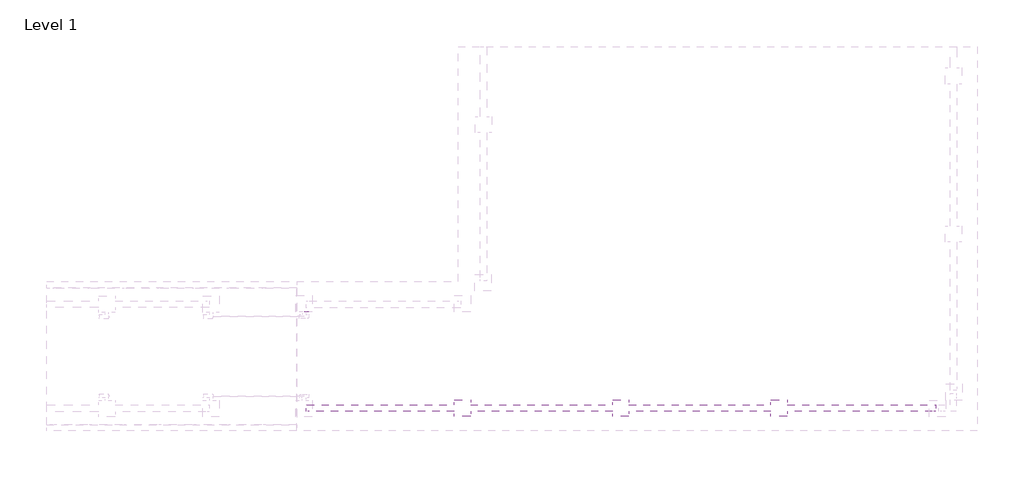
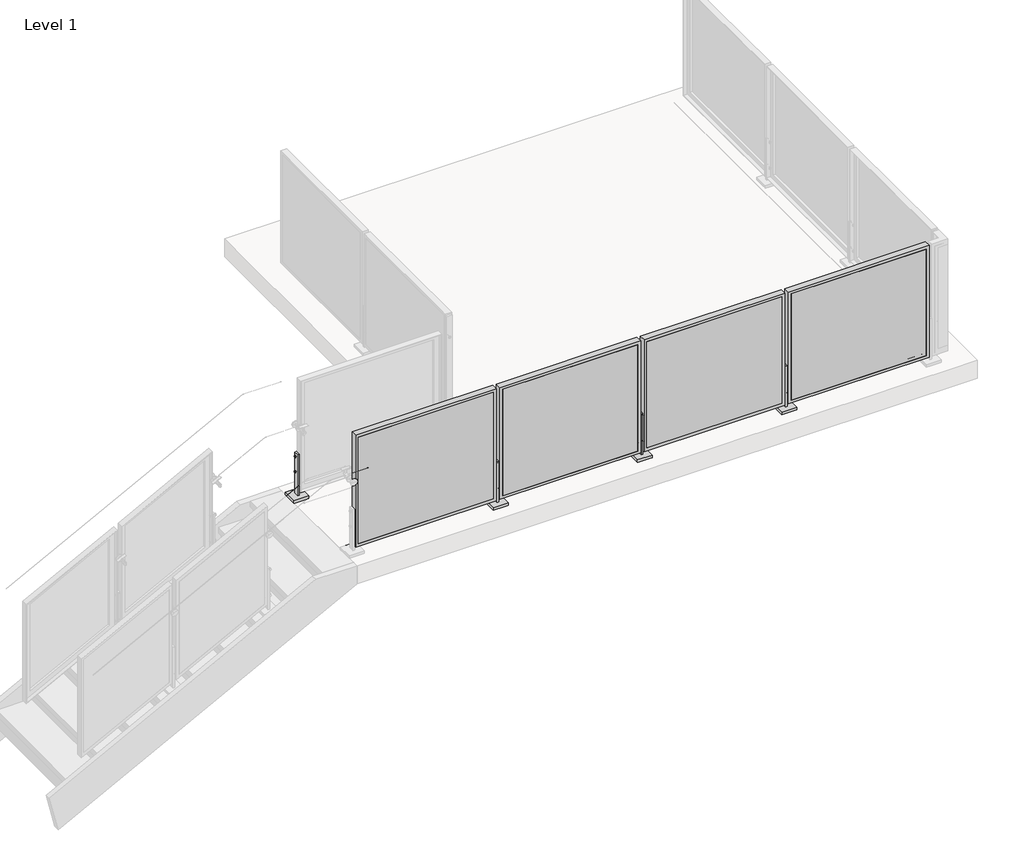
# One storey, part 16 of 37: 1 proxy, 1 railing.
"""IFC4 building model written with IfcOpenShell, lengths in millimetres."""

from ifc_helpers import new_model, si_unit, point, frame, frame_2d, origin, place, context, project, spatial, polyline, circle_curve, trimmed, segment, composite_curve, outline, extrude, faceted_brep, transform, mapped, element, save
from ifc_brep_helpers import plane_surface, cylinder_surface, advanced_brep
from components import baluster_end_post_viva_frame_top_mount_efd1a991

model = new_model("IFC4")

# Units and contexts
model_context = context("Model", 3, world=origin())
ifc_project = project(units=[si_unit("LENGTHUNIT", "METRE", prefix="MILLI")], contexts=[model_context])

# Site, building, storey
site = spatial("IfcSite", under=ifc_project)
building = spatial("IfcBuilding", under=site)
storey = spatial("IfcBuildingStorey", under=building, Name="Level 1", Elevation=0.0)

# Proxy
placement = place(None, origin())
baluster_end_post_viva_frame_top_mount_shape = baluster_end_post_viva_frame_top_mount_efd1a991(model_context)
element("IfcBuildingElementProxy", 1, Name="Baluster-End-Post-VIVA-FRAME-Top Mount : ANCHORED TO CONCRETE_TOP MOUNT FOLD_STRAIGHT", ObjectType="Baluster-End-Post-VIVA-FRAME-Top Mount : ANCHORED TO CONCRETE_TOP MOUNT FOLD_STRAIGHT", at=placement, inside=storey, context=model_context, shape_type="MappedRepresentation", body=[
    mapped(baluster_end_post_viva_frame_top_mount_shape, transform((-7413.6813244, -17681.7668664, 3047.492), x_axis=(-1.0, 0.0, 0.0), y_axis=(0.0, -1.0, 0.0), z_axis=(0.0, 0.0, 1.0))),
])

# Railing
element("IfcRailing", 2, ObjectType="Metal-Panel-VIVA-FRAME-Slab-Top-Anchor-Straight", at=placement, inside=storey, context=model_context, shape_type="SolidModel", body=[
    extrude(outline(composite_curve([segment(trimmed(circle_curve(frame_2d((-18323.6294547, 3047.746)), 0.254), [point((-18323.8834547, 3047.746))], [point((-18323.3754547, 3047.746))], False, "CARTESIAN"), True, "CONTINUOUS"), segment(trimmed(circle_curve(frame_2d((-18323.6294547, 3047.746)), 0.254), [point((-18323.3754547, 3047.746))], [point((-18323.8834547, 3047.746))], False, "CARTESIAN"), True, "CONTINUOUS")], self_intersect=False)), frame((-7413.6813244, 0.0, 0.0), z_axis=(1.0, 0.0, 0.0), x_axis=(0.0, 1.0, 0.0)), (0.0, 0.0, 1.0), 5080.0),
    extrude(outline(composite_curve([segment(trimmed(circle_curve(frame_2d((-18323.6294547, 3047.746)), 0.254), [point((-18323.8834547, 3047.746))], [point((-18323.3754547, 3047.746))], False, "CARTESIAN"), True, "CONTINUOUS"), segment(trimmed(circle_curve(frame_2d((-18323.6294547, 3047.746)), 0.254), [point((-18323.3754547, 3047.746))], [point((-18323.8834547, 3047.746))], False, "CARTESIAN"), True, "CONTINUOUS")], self_intersect=False)), frame((-7413.6813244, 0.0, 0.0), z_axis=(1.0, 0.0, 0.0), x_axis=(0.0, 1.0, 0.0)), (0.0, 0.0, 1.0), 5080.0),
    extrude(outline(polyline([(-3562.8548675, -18446.4398547), (-3562.8548675, -18443.4398547), (-2374.5077814, -18443.4398547), (-2374.5077814, -18446.4398547), (-3562.8548675, -18446.4398547)])), frame((0.0, 0.0, 3124.1959569), z_axis=(0.0, 0.0, 1.0), x_axis=(1.0, 0.0, 0.0)), (0.0, 0.0, 1.0), 990.5826861),
    faceted_brep([(-3588.2548675, -18446.4398547, 4140.1786431), (-3588.2548675, -18446.4398547, 3098.7959569), (-2349.1077814, -18446.4398547, 3098.7959569), (-2349.1077814, -18446.4398547, 4140.1786431), (-3562.8548675, -18446.4398547, 4114.7786431), (-2374.5077814, -18446.4398547, 4114.7786431), (-2374.5077814, -18446.4398547, 3124.1959569), (-3562.8548675, -18446.4398547, 3124.1959569), (-2374.5077814, -18443.4398547, 3124.1959569), (-3562.8548675, -18443.4398547, 3124.1959569), (-2374.5077814, -18443.4398547, 4114.7786431), (-3562.8548675, -18443.4398547, 4114.7786431), (-3582.2604675, -18392.6398547, 3104.7903569), (-3582.2604675, -18423.4500547, 3104.7903569), (-2355.1021814, -18423.4500547, 3104.7903569), (-2355.1021814, -18392.6398547, 3104.7903569), (-2355.1021814, -18423.4500547, 4134.1842431), (-2355.1021814, -18392.6398547, 4134.1842431), (-3582.2604675, -18392.6398547, 4134.1842431), (-3582.2604675, -18423.4500547, 4134.1842431), (-2349.1077814, -18392.6398547, 3098.7959569), (-3588.2548675, -18392.6398547, 3098.7959569), (-3588.2548675, -18392.6398547, 4140.1786431), (-2349.1077814, -18392.6398547, 4140.1786431), (-3537.4548675, -18443.4398547, 4089.3786431), (-2399.9077814, -18443.4398547, 4089.3786431), (-2399.9077814, -18443.4398547, 3149.5959569), (-3537.4548675, -18443.4398547, 3149.5959569), (-2399.9077814, -18423.4500547, 3149.5959569), (-2399.9077814, -18423.4500547, 4089.3786431), (-3537.4548675, -18423.4500547, 4089.3786431), (-3537.4548675, -18423.4500547, 3149.5959569)], [[[0, 1, 2, 3], [4, 5, 6, 7]], [[7, 6, 8, 9]], [[6, 5, 10, 8]], [[5, 4, 11, 10]], [[4, 7, 9, 11]], [[12, 13, 14, 15]], [[15, 14, 16, 17]], [[13, 12, 18, 19]], [[20, 21, 22, 23], [12, 15, 17, 18]], [[21, 1, 0, 22]], [[21, 20, 2, 1]], [[2, 20, 23, 3]], [[22, 0, 3, 23]], [[11, 9, 8, 10], [24, 25, 26, 27]], [[14, 13, 19, 16], [28, 29, 30, 31]], [[19, 18, 17, 16]], [[25, 24, 30, 29]], [[26, 25, 29, 28]], [[27, 26, 28, 31]], [[24, 27, 31, 30]]]),
    advanced_brep(
    [(-3629.8687244, -18419.5398547, 3178.1496), (-3629.8687244, -18419.5398547, 3197.2504), (-3629.8687244, -18419.5398547, 3187.7), (-3625.0935244, -18419.5398547, 3178.1496), (-3625.0935244, -18419.5398547, 3197.2504), (-3625.0935244, -18419.5398547, 3182.9248), (-3625.0935244, -18419.5398547, 3192.4752), (-3582.2691244, -18419.5398547, 3182.9248), (-3582.2691244, -18419.5398547, 3192.4752), (-3582.2691244, -18419.5398547, 3178.1496), (-3582.2691244, -18419.5398547, 3197.2504), (-3577.4939244, -18419.5398547, 3178.1496), (-3577.4939244, -18419.5398547, 3197.2504), (-3577.4939244, -18419.5398547, 3187.7)],
    [
        (0, 1, circle_curve(frame((-3629.8687244, -18419.5398547, 3187.7), z_axis=(-1.0, 0.0, 0.0), x_axis=(0.0, 0.0, 1.0)), 9.5504)),
        (1, 2),
        (2, 0),
        (1, 0, circle_curve(frame((-3629.8687244, -18419.5398547, 3187.7), z_axis=(-1.0, 0.0, 0.0), x_axis=(0.0, 0.0, 1.0)), 9.5504)),
        (3, 4, circle_curve(frame((-3625.0935244, -18419.5398547, 3187.7), z_axis=(-1.0, 0.0, 0.0), x_axis=(0.0, 0.0, 1.0)), 9.5504)),
        (4, 1),
        (0, 3),
        (4, 3, circle_curve(frame((-3625.0935244, -18419.5398547, 3187.7), z_axis=(-1.0, 0.0, 0.0), x_axis=(0.0, 0.0, 1.0)), 9.5504)),
        (5, 6, circle_curve(frame((-3625.0935244, -18419.5398547, 3187.7), z_axis=(-1.0, 0.0, 0.0), x_axis=(0.0, 0.0, 1.0)), 4.7752)),
        (6, 4),
        (3, 5),
        (6, 5, circle_curve(frame((-3625.0935244, -18419.5398547, 3187.7), z_axis=(-1.0, 0.0, 0.0), x_axis=(0.0, 0.0, 1.0)), 4.7752)),
        (7, 8, circle_curve(frame((-3582.2691244, -18419.5398547, 3187.7), z_axis=(-1.0, 0.0, 0.0), x_axis=(0.0, 0.0, 1.0)), 4.7752)),
        (8, 6),
        (5, 7),
        (8, 7, circle_curve(frame((-3582.2691244, -18419.5398547, 3187.7), z_axis=(-1.0, 0.0, 0.0), x_axis=(0.0, 0.0, 1.0)), 4.7752)),
        (9, 10, circle_curve(frame((-3582.2691244, -18419.5398547, 3187.7), z_axis=(-1.0, 0.0, 0.0), x_axis=(0.0, 0.0, 1.0)), 9.5504)),
        (10, 8),
        (7, 9),
        (10, 9, circle_curve(frame((-3582.2691244, -18419.5398547, 3187.7), z_axis=(-1.0, 0.0, 0.0), x_axis=(0.0, 0.0, 1.0)), 9.5504)),
        (11, 12, circle_curve(frame((-3577.4939244, -18419.5398547, 3187.7), z_axis=(-1.0, 0.0, 0.0), x_axis=(0.0, 0.0, 1.0)), 9.5504)),
        (12, 10),
        (9, 11),
        (12, 11, circle_curve(frame((-3577.4939244, -18419.5398547, 3187.7), z_axis=(-1.0, 0.0, 0.0), x_axis=(0.0, 0.0, 1.0)), 9.5504)),
        (13, 12),
        (11, 13),
    ],
    [
        plane_surface(frame((-3629.8687244, -18419.5398547, 3187.7), z_axis=(-1.0, 0.0, 0.0), x_axis=(0.0, 0.0, 1.0))),
        cylinder_surface(frame((-7021.4490816, -18419.5398547, 3187.7), z_axis=(1.0, 0.0, 0.0), x_axis=(0.0, 0.0, 1.0)), 9.5504),
        plane_surface(frame((-3625.0935244, -18419.5398547, 3187.7), z_axis=(1.0, 0.0, 0.0), x_axis=(0.0, 0.0, 1.0))),
        cylinder_surface(frame((-7021.4490816, -18419.5398547, 3187.7), z_axis=(1.0, 0.0, 0.0), x_axis=(0.0, 0.0, 1.0)), 4.7752),
        plane_surface(frame((-3582.2691244, -18419.5398547, 3187.7), z_axis=(-1.0, 0.0, 0.0), x_axis=(0.0, 0.0, 1.0))),
        plane_surface(frame((-3577.4939244, -18419.5398547, 3187.7), z_axis=(1.0, 0.0, 0.0), x_axis=(0.0, 0.0, 1.0))),
    ],
    [
        (0, [[1, 2, 3]]),
        (0, [[4, -3, -2]]),
        (1, [[5, 6, -1, 7]]),
        (1, [[8, -7, -4, -6]]),
        (2, [[9, 10, -5, 11]]),
        (2, [[12, -11, -8, -10]]),
        (3, [[13, 14, -9, 15]]),
        (3, [[16, -15, -12, -14]]),
        (4, [[17, 18, -13, 19]]),
        (4, [[20, -19, -16, -18]]),
        (1, [[21, 22, -17, 23]]),
        (1, [[24, -23, -20, -22]]),
        (5, [[25, -21, 26]]),
        (5, [[-26, -24, -25]]),
    ],
),
    advanced_brep(
    [(-3629.8687244, -18419.5398547, 3419.4496), (-3629.8687244, -18419.5398547, 3438.5504), (-3629.8687244, -18419.5398547, 3429.0), (-3625.0935244, -18419.5398547, 3419.4496), (-3625.0935244, -18419.5398547, 3438.5504), (-3625.0935244, -18419.5398547, 3424.2248), (-3625.0935244, -18419.5398547, 3433.7752), (-3582.2691244, -18419.5398547, 3424.2248), (-3582.2691244, -18419.5398547, 3433.7752), (-3582.2691244, -18419.5398547, 3419.4496), (-3582.2691244, -18419.5398547, 3438.5504), (-3577.4939244, -18419.5398547, 3419.4496), (-3577.4939244, -18419.5398547, 3438.5504), (-3577.4939244, -18419.5398547, 3429.0)],
    [
        (0, 1, circle_curve(frame((-3629.8687244, -18419.5398547, 3429.0), z_axis=(-1.0, 0.0, 0.0), x_axis=(0.0, 0.0, 1.0)), 9.5504)),
        (1, 2),
        (2, 0),
        (1, 0, circle_curve(frame((-3629.8687244, -18419.5398547, 3429.0), z_axis=(-1.0, 0.0, 0.0), x_axis=(0.0, 0.0, 1.0)), 9.5504)),
        (3, 4, circle_curve(frame((-3625.0935244, -18419.5398547, 3429.0), z_axis=(-1.0, 0.0, 0.0), x_axis=(0.0, 0.0, 1.0)), 9.5504)),
        (4, 1),
        (0, 3),
        (4, 3, circle_curve(frame((-3625.0935244, -18419.5398547, 3429.0), z_axis=(-1.0, 0.0, 0.0), x_axis=(0.0, 0.0, 1.0)), 9.5504)),
        (5, 6, circle_curve(frame((-3625.0935244, -18419.5398547, 3429.0), z_axis=(-1.0, 0.0, 0.0), x_axis=(0.0, 0.0, 1.0)), 4.7752)),
        (6, 4),
        (3, 5),
        (6, 5, circle_curve(frame((-3625.0935244, -18419.5398547, 3429.0), z_axis=(-1.0, 0.0, 0.0), x_axis=(0.0, 0.0, 1.0)), 4.7752)),
        (7, 8, circle_curve(frame((-3582.2691244, -18419.5398547, 3429.0), z_axis=(-1.0, 0.0, 0.0), x_axis=(0.0, 0.0, 1.0)), 4.7752)),
        (8, 6),
        (5, 7),
        (8, 7, circle_curve(frame((-3582.2691244, -18419.5398547, 3429.0), z_axis=(-1.0, 0.0, 0.0), x_axis=(0.0, 0.0, 1.0)), 4.7752)),
        (9, 10, circle_curve(frame((-3582.2691244, -18419.5398547, 3429.0), z_axis=(-1.0, 0.0, 0.0), x_axis=(0.0, 0.0, 1.0)), 9.5504)),
        (10, 8),
        (7, 9),
        (10, 9, circle_curve(frame((-3582.2691244, -18419.5398547, 3429.0), z_axis=(-1.0, 0.0, 0.0), x_axis=(0.0, 0.0, 1.0)), 9.5504)),
        (11, 12, circle_curve(frame((-3577.4939244, -18419.5398547, 3429.0), z_axis=(-1.0, 0.0, 0.0), x_axis=(0.0, 0.0, 1.0)), 9.5504)),
        (12, 10),
        (9, 11),
        (12, 11, circle_curve(frame((-3577.4939244, -18419.5398547, 3429.0), z_axis=(-1.0, 0.0, 0.0), x_axis=(0.0, 0.0, 1.0)), 9.5504)),
        (13, 12),
        (11, 13),
    ],
    [
        plane_surface(frame((-3629.8687244, -18419.5398547, 3429.0), z_axis=(-1.0, 0.0, 0.0), x_axis=(0.0, 0.0, 1.0))),
        cylinder_surface(frame((-7021.4490816, -18419.5398547, 3429.0), z_axis=(1.0, 0.0, 0.0), x_axis=(0.0, 0.0, 1.0)), 9.5504),
        plane_surface(frame((-3625.0935244, -18419.5398547, 3429.0), z_axis=(1.0, 0.0, 0.0), x_axis=(0.0, 0.0, 1.0))),
        cylinder_surface(frame((-7021.4490816, -18419.5398547, 3429.0), z_axis=(1.0, 0.0, 0.0), x_axis=(0.0, 0.0, 1.0)), 4.7752),
        plane_surface(frame((-3582.2691244, -18419.5398547, 3429.0), z_axis=(-1.0, 0.0, 0.0), x_axis=(0.0, 0.0, 1.0))),
        plane_surface(frame((-3577.4939244, -18419.5398547, 3429.0), z_axis=(1.0, 0.0, 0.0), x_axis=(0.0, 0.0, 1.0))),
    ],
    [
        (0, [[1, 2, 3]]),
        (0, [[4, -3, -2]]),
        (1, [[5, 6, -1, 7]]),
        (1, [[8, -7, -4, -6]]),
        (2, [[9, 10, -5, 11]]),
        (2, [[12, -11, -8, -10]]),
        (3, [[13, 14, -9, 15]]),
        (3, [[16, -15, -12, -14]]),
        (4, [[17, 18, -13, 19]]),
        (4, [[20, -19, -16, -18]]),
        (1, [[21, 22, -17, 23]]),
        (1, [[24, -23, -20, -22]]),
        (5, [[25, -21, 26]]),
        (5, [[-26, -24, -25]]),
    ],
),
    extrude(outline(polyline([(-3669.5689244, -18353.6522547), (-3537.7937244, -18353.6522547), (-3537.7937244, -18485.4274547), (-3669.5689244, -18485.4274547), (-3669.5689244, -18353.6522547)])), frame((0.0, 0.0, 3048.0), z_axis=(0.0, 0.0, 1.0), x_axis=(1.0, 0.0, 0.0)), (0.0, 0.0, 1.0), 25.4),
    extrude(outline(polyline([(-3611.6209161, -18397.3148547), (-3595.7417328, -18397.3148547), (-3595.7417328, -18441.7648547), (-3611.6209161, -18441.7648547), (-3611.6209161, -18397.3148547)])), frame((0.0, 0.0, 3048.0), z_axis=(0.0, 0.0, 1.0), x_axis=(1.0, 0.0, 0.0)), (0.0, 0.0, 1.0), 406.4),
    extrude(outline(polyline([(-4832.8548675, -18446.4398547), (-4832.8548675, -18443.4398547), (-3644.5077814, -18443.4398547), (-3644.5077814, -18446.4398547), (-4832.8548675, -18446.4398547)])), frame((0.0, 0.0, 3124.1959569), z_axis=(0.0, 0.0, 1.0), x_axis=(1.0, 0.0, 0.0)), (0.0, 0.0, 1.0), 990.5826861),
    faceted_brep([(-4858.2548675, -18446.4398547, 4140.1786431), (-4858.2548675, -18446.4398547, 3098.7959569), (-3619.1077814, -18446.4398547, 3098.7959569), (-3619.1077814, -18446.4398547, 4140.1786431), (-4832.8548675, -18446.4398547, 4114.7786431), (-3644.5077814, -18446.4398547, 4114.7786431), (-3644.5077814, -18446.4398547, 3124.1959569), (-4832.8548675, -18446.4398547, 3124.1959569), (-3644.5077814, -18443.4398547, 3124.1959569), (-4832.8548675, -18443.4398547, 3124.1959569), (-3644.5077814, -18443.4398547, 4114.7786431), (-4832.8548675, -18443.4398547, 4114.7786431), (-4852.2604675, -18392.6398547, 3104.7903569), (-4852.2604675, -18423.4500547, 3104.7903569), (-3625.1021814, -18423.4500547, 3104.7903569), (-3625.1021814, -18392.6398547, 3104.7903569), (-3625.1021814, -18423.4500547, 4134.1842431), (-3625.1021814, -18392.6398547, 4134.1842431), (-4852.2604675, -18392.6398547, 4134.1842431), (-4852.2604675, -18423.4500547, 4134.1842431), (-3619.1077814, -18392.6398547, 3098.7959569), (-4858.2548675, -18392.6398547, 3098.7959569), (-4858.2548675, -18392.6398547, 4140.1786431), (-3619.1077814, -18392.6398547, 4140.1786431), (-4807.4548675, -18443.4398547, 4089.3786431), (-3669.9077814, -18443.4398547, 4089.3786431), (-3669.9077814, -18443.4398547, 3149.5959569), (-4807.4548675, -18443.4398547, 3149.5959569), (-3669.9077814, -18423.4500547, 3149.5959569), (-3669.9077814, -18423.4500547, 4089.3786431), (-4807.4548675, -18423.4500547, 4089.3786431), (-4807.4548675, -18423.4500547, 3149.5959569)], [[[0, 1, 2, 3], [4, 5, 6, 7]], [[7, 6, 8, 9]], [[6, 5, 10, 8]], [[5, 4, 11, 10]], [[4, 7, 9, 11]], [[12, 13, 14, 15]], [[15, 14, 16, 17]], [[13, 12, 18, 19]], [[20, 21, 22, 23], [12, 15, 17, 18]], [[21, 1, 0, 22]], [[21, 20, 2, 1]], [[2, 20, 23, 3]], [[22, 0, 3, 23]], [[11, 9, 8, 10], [24, 25, 26, 27]], [[14, 13, 19, 16], [28, 29, 30, 31]], [[19, 18, 17, 16]], [[25, 24, 30, 29]], [[26, 25, 29, 28]], [[27, 26, 28, 31]], [[24, 27, 31, 30]]]),
    advanced_brep(
    [(-4899.8687244, -18419.5398547, 3178.1496), (-4899.8687244, -18419.5398547, 3197.2504), (-4899.8687244, -18419.5398547, 3187.7), (-4895.0935244, -18419.5398547, 3178.1496), (-4895.0935244, -18419.5398547, 3197.2504), (-4895.0935244, -18419.5398547, 3182.9248), (-4895.0935244, -18419.5398547, 3192.4752), (-4852.2691244, -18419.5398547, 3182.9248), (-4852.2691244, -18419.5398547, 3192.4752), (-4852.2691244, -18419.5398547, 3178.1496), (-4852.2691244, -18419.5398547, 3197.2504), (-4847.4939244, -18419.5398547, 3178.1496), (-4847.4939244, -18419.5398547, 3197.2504), (-4847.4939244, -18419.5398547, 3187.7)],
    [
        (0, 1, circle_curve(frame((-4899.8687244, -18419.5398547, 3187.7), z_axis=(-1.0, 0.0, 0.0), x_axis=(0.0, 0.0, 1.0)), 9.5504)),
        (1, 2),
        (2, 0),
        (1, 0, circle_curve(frame((-4899.8687244, -18419.5398547, 3187.7), z_axis=(-1.0, 0.0, 0.0), x_axis=(0.0, 0.0, 1.0)), 9.5504)),
        (3, 4, circle_curve(frame((-4895.0935244, -18419.5398547, 3187.7), z_axis=(-1.0, 0.0, 0.0), x_axis=(0.0, 0.0, 1.0)), 9.5504)),
        (4, 1),
        (0, 3),
        (4, 3, circle_curve(frame((-4895.0935244, -18419.5398547, 3187.7), z_axis=(-1.0, 0.0, 0.0), x_axis=(0.0, 0.0, 1.0)), 9.5504)),
        (5, 6, circle_curve(frame((-4895.0935244, -18419.5398547, 3187.7), z_axis=(-1.0, 0.0, 0.0), x_axis=(0.0, 0.0, 1.0)), 4.7752)),
        (6, 4),
        (3, 5),
        (6, 5, circle_curve(frame((-4895.0935244, -18419.5398547, 3187.7), z_axis=(-1.0, 0.0, 0.0), x_axis=(0.0, 0.0, 1.0)), 4.7752)),
        (7, 8, circle_curve(frame((-4852.2691244, -18419.5398547, 3187.7), z_axis=(-1.0, 0.0, 0.0), x_axis=(0.0, 0.0, 1.0)), 4.7752)),
        (8, 6),
        (5, 7),
        (8, 7, circle_curve(frame((-4852.2691244, -18419.5398547, 3187.7), z_axis=(-1.0, 0.0, 0.0), x_axis=(0.0, 0.0, 1.0)), 4.7752)),
        (9, 10, circle_curve(frame((-4852.2691244, -18419.5398547, 3187.7), z_axis=(-1.0, 0.0, 0.0), x_axis=(0.0, 0.0, 1.0)), 9.5504)),
        (10, 8),
        (7, 9),
        (10, 9, circle_curve(frame((-4852.2691244, -18419.5398547, 3187.7), z_axis=(-1.0, 0.0, 0.0), x_axis=(0.0, 0.0, 1.0)), 9.5504)),
        (11, 12, circle_curve(frame((-4847.4939244, -18419.5398547, 3187.7), z_axis=(-1.0, 0.0, 0.0), x_axis=(0.0, 0.0, 1.0)), 9.5504)),
        (12, 10),
        (9, 11),
        (12, 11, circle_curve(frame((-4847.4939244, -18419.5398547, 3187.7), z_axis=(-1.0, 0.0, 0.0), x_axis=(0.0, 0.0, 1.0)), 9.5504)),
        (13, 12),
        (11, 13),
    ],
    [
        plane_surface(frame((-4899.8687244, -18419.5398547, 3187.7), z_axis=(-1.0, 0.0, 0.0), x_axis=(0.0, 0.0, 1.0))),
        cylinder_surface(frame((-8291.4490816, -18419.5398547, 3187.7), z_axis=(1.0, 0.0, 0.0), x_axis=(0.0, 0.0, 1.0)), 9.5504),
        plane_surface(frame((-4895.0935244, -18419.5398547, 3187.7), z_axis=(1.0, 0.0, 0.0), x_axis=(0.0, 0.0, 1.0))),
        cylinder_surface(frame((-8291.4490816, -18419.5398547, 3187.7), z_axis=(1.0, 0.0, 0.0), x_axis=(0.0, 0.0, 1.0)), 4.7752),
        plane_surface(frame((-4852.2691244, -18419.5398547, 3187.7), z_axis=(-1.0, 0.0, 0.0), x_axis=(0.0, 0.0, 1.0))),
        plane_surface(frame((-4847.4939244, -18419.5398547, 3187.7), z_axis=(1.0, 0.0, 0.0), x_axis=(0.0, 0.0, 1.0))),
    ],
    [
        (0, [[1, 2, 3]]),
        (0, [[4, -3, -2]]),
        (1, [[5, 6, -1, 7]]),
        (1, [[8, -7, -4, -6]]),
        (2, [[9, 10, -5, 11]]),
        (2, [[12, -11, -8, -10]]),
        (3, [[13, 14, -9, 15]]),
        (3, [[16, -15, -12, -14]]),
        (4, [[17, 18, -13, 19]]),
        (4, [[20, -19, -16, -18]]),
        (1, [[21, 22, -17, 23]]),
        (1, [[24, -23, -20, -22]]),
        (5, [[25, -21, 26]]),
        (5, [[-26, -24, -25]]),
    ],
),
    advanced_brep(
    [(-4899.8687244, -18419.5398547, 3419.4496), (-4899.8687244, -18419.5398547, 3438.5504), (-4899.8687244, -18419.5398547, 3429.0), (-4895.0935244, -18419.5398547, 3419.4496), (-4895.0935244, -18419.5398547, 3438.5504), (-4895.0935244, -18419.5398547, 3424.2248), (-4895.0935244, -18419.5398547, 3433.7752), (-4852.2691244, -18419.5398547, 3424.2248), (-4852.2691244, -18419.5398547, 3433.7752), (-4852.2691244, -18419.5398547, 3419.4496), (-4852.2691244, -18419.5398547, 3438.5504), (-4847.4939244, -18419.5398547, 3419.4496), (-4847.4939244, -18419.5398547, 3438.5504), (-4847.4939244, -18419.5398547, 3429.0)],
    [
        (0, 1, circle_curve(frame((-4899.8687244, -18419.5398547, 3429.0), z_axis=(-1.0, 0.0, 0.0), x_axis=(0.0, 0.0, 1.0)), 9.5504)),
        (1, 2),
        (2, 0),
        (1, 0, circle_curve(frame((-4899.8687244, -18419.5398547, 3429.0), z_axis=(-1.0, 0.0, 0.0), x_axis=(0.0, 0.0, 1.0)), 9.5504)),
        (3, 4, circle_curve(frame((-4895.0935244, -18419.5398547, 3429.0), z_axis=(-1.0, 0.0, 0.0), x_axis=(0.0, 0.0, 1.0)), 9.5504)),
        (4, 1),
        (0, 3),
        (4, 3, circle_curve(frame((-4895.0935244, -18419.5398547, 3429.0), z_axis=(-1.0, 0.0, 0.0), x_axis=(0.0, 0.0, 1.0)), 9.5504)),
        (5, 6, circle_curve(frame((-4895.0935244, -18419.5398547, 3429.0), z_axis=(-1.0, 0.0, 0.0), x_axis=(0.0, 0.0, 1.0)), 4.7752)),
        (6, 4),
        (3, 5),
        (6, 5, circle_curve(frame((-4895.0935244, -18419.5398547, 3429.0), z_axis=(-1.0, 0.0, 0.0), x_axis=(0.0, 0.0, 1.0)), 4.7752)),
        (7, 8, circle_curve(frame((-4852.2691244, -18419.5398547, 3429.0), z_axis=(-1.0, 0.0, 0.0), x_axis=(0.0, 0.0, 1.0)), 4.7752)),
        (8, 6),
        (5, 7),
        (8, 7, circle_curve(frame((-4852.2691244, -18419.5398547, 3429.0), z_axis=(-1.0, 0.0, 0.0), x_axis=(0.0, 0.0, 1.0)), 4.7752)),
        (9, 10, circle_curve(frame((-4852.2691244, -18419.5398547, 3429.0), z_axis=(-1.0, 0.0, 0.0), x_axis=(0.0, 0.0, 1.0)), 9.5504)),
        (10, 8),
        (7, 9),
        (10, 9, circle_curve(frame((-4852.2691244, -18419.5398547, 3429.0), z_axis=(-1.0, 0.0, 0.0), x_axis=(0.0, 0.0, 1.0)), 9.5504)),
        (11, 12, circle_curve(frame((-4847.4939244, -18419.5398547, 3429.0), z_axis=(-1.0, 0.0, 0.0), x_axis=(0.0, 0.0, 1.0)), 9.5504)),
        (12, 10),
        (9, 11),
        (12, 11, circle_curve(frame((-4847.4939244, -18419.5398547, 3429.0), z_axis=(-1.0, 0.0, 0.0), x_axis=(0.0, 0.0, 1.0)), 9.5504)),
        (13, 12),
        (11, 13),
    ],
    [
        plane_surface(frame((-4899.8687244, -18419.5398547, 3429.0), z_axis=(-1.0, 0.0, 0.0), x_axis=(0.0, 0.0, 1.0))),
        cylinder_surface(frame((-8291.4490816, -18419.5398547, 3429.0), z_axis=(1.0, 0.0, 0.0), x_axis=(0.0, 0.0, 1.0)), 9.5504),
        plane_surface(frame((-4895.0935244, -18419.5398547, 3429.0), z_axis=(1.0, 0.0, 0.0), x_axis=(0.0, 0.0, 1.0))),
        cylinder_surface(frame((-8291.4490816, -18419.5398547, 3429.0), z_axis=(1.0, 0.0, 0.0), x_axis=(0.0, 0.0, 1.0)), 4.7752),
        plane_surface(frame((-4852.2691244, -18419.5398547, 3429.0), z_axis=(-1.0, 0.0, 0.0), x_axis=(0.0, 0.0, 1.0))),
        plane_surface(frame((-4847.4939244, -18419.5398547, 3429.0), z_axis=(1.0, 0.0, 0.0), x_axis=(0.0, 0.0, 1.0))),
    ],
    [
        (0, [[1, 2, 3]]),
        (0, [[4, -3, -2]]),
        (1, [[5, 6, -1, 7]]),
        (1, [[8, -7, -4, -6]]),
        (2, [[9, 10, -5, 11]]),
        (2, [[12, -11, -8, -10]]),
        (3, [[13, 14, -9, 15]]),
        (3, [[16, -15, -12, -14]]),
        (4, [[17, 18, -13, 19]]),
        (4, [[20, -19, -16, -18]]),
        (1, [[21, 22, -17, 23]]),
        (1, [[24, -23, -20, -22]]),
        (5, [[25, -21, 26]]),
        (5, [[-26, -24, -25]]),
    ],
),
    extrude(outline(polyline([(-4939.5689244, -18353.6522547), (-4807.7937244, -18353.6522547), (-4807.7937244, -18485.4274547), (-4939.5689244, -18485.4274547), (-4939.5689244, -18353.6522547)])), frame((0.0, 0.0, 3048.0), z_axis=(0.0, 0.0, 1.0), x_axis=(1.0, 0.0, 0.0)), (0.0, 0.0, 1.0), 25.4),
    extrude(outline(polyline([(-4881.6209161, -18397.3148547), (-4865.7417328, -18397.3148547), (-4865.7417328, -18441.7648547), (-4881.6209161, -18441.7648547), (-4881.6209161, -18397.3148547)])), frame((0.0, 0.0, 3048.0), z_axis=(0.0, 0.0, 1.0), x_axis=(1.0, 0.0, 0.0)), (0.0, 0.0, 1.0), 406.4),
    extrude(outline(polyline([(-6102.8548675, -18446.4398547), (-6102.8548675, -18443.4398547), (-4914.5077814, -18443.4398547), (-4914.5077814, -18446.4398547), (-6102.8548675, -18446.4398547)])), frame((0.0, 0.0, 3124.1959569), z_axis=(0.0, 0.0, 1.0), x_axis=(1.0, 0.0, 0.0)), (0.0, 0.0, 1.0), 990.5826861),
    faceted_brep([(-6128.2548675, -18446.4398547, 4140.1786431), (-6128.2548675, -18446.4398547, 3098.7959569), (-4889.1077814, -18446.4398547, 3098.7959569), (-4889.1077814, -18446.4398547, 4140.1786431), (-6102.8548675, -18446.4398547, 4114.7786431), (-4914.5077814, -18446.4398547, 4114.7786431), (-4914.5077814, -18446.4398547, 3124.1959569), (-6102.8548675, -18446.4398547, 3124.1959569), (-4914.5077814, -18443.4398547, 3124.1959569), (-6102.8548675, -18443.4398547, 3124.1959569), (-4914.5077814, -18443.4398547, 4114.7786431), (-6102.8548675, -18443.4398547, 4114.7786431), (-6122.2604675, -18392.6398547, 3104.7903569), (-6122.2604675, -18423.4500547, 3104.7903569), (-4895.1021814, -18423.4500547, 3104.7903569), (-4895.1021814, -18392.6398547, 3104.7903569), (-4895.1021814, -18423.4500547, 4134.1842431), (-4895.1021814, -18392.6398547, 4134.1842431), (-6122.2604675, -18392.6398547, 4134.1842431), (-6122.2604675, -18423.4500547, 4134.1842431), (-4889.1077814, -18392.6398547, 3098.7959569), (-6128.2548675, -18392.6398547, 3098.7959569), (-6128.2548675, -18392.6398547, 4140.1786431), (-4889.1077814, -18392.6398547, 4140.1786431), (-6077.4548675, -18443.4398547, 4089.3786431), (-4939.9077814, -18443.4398547, 4089.3786431), (-4939.9077814, -18443.4398547, 3149.5959569), (-6077.4548675, -18443.4398547, 3149.5959569), (-4939.9077814, -18423.4500547, 3149.5959569), (-4939.9077814, -18423.4500547, 4089.3786431), (-6077.4548675, -18423.4500547, 4089.3786431), (-6077.4548675, -18423.4500547, 3149.5959569)], [[[0, 1, 2, 3], [4, 5, 6, 7]], [[7, 6, 8, 9]], [[6, 5, 10, 8]], [[5, 4, 11, 10]], [[4, 7, 9, 11]], [[12, 13, 14, 15]], [[15, 14, 16, 17]], [[13, 12, 18, 19]], [[20, 21, 22, 23], [12, 15, 17, 18]], [[21, 1, 0, 22]], [[21, 20, 2, 1]], [[2, 20, 23, 3]], [[22, 0, 3, 23]], [[11, 9, 8, 10], [24, 25, 26, 27]], [[14, 13, 19, 16], [28, 29, 30, 31]], [[19, 18, 17, 16]], [[25, 24, 30, 29]], [[26, 25, 29, 28]], [[27, 26, 28, 31]], [[24, 27, 31, 30]]]),
    advanced_brep(
    [(-6169.8687244, -18419.5398547, 3178.1496), (-6169.8687244, -18419.5398547, 3197.2504), (-6169.8687244, -18419.5398547, 3187.7), (-6165.0935244, -18419.5398547, 3178.1496), (-6165.0935244, -18419.5398547, 3197.2504), (-6165.0935244, -18419.5398547, 3182.9248), (-6165.0935244, -18419.5398547, 3192.4752), (-6122.2691244, -18419.5398547, 3182.9248), (-6122.2691244, -18419.5398547, 3192.4752), (-6122.2691244, -18419.5398547, 3178.1496), (-6122.2691244, -18419.5398547, 3197.2504), (-6117.4939244, -18419.5398547, 3178.1496), (-6117.4939244, -18419.5398547, 3197.2504), (-6117.4939244, -18419.5398547, 3187.7)],
    [
        (0, 1, circle_curve(frame((-6169.8687244, -18419.5398547, 3187.7), z_axis=(-1.0, 0.0, 0.0), x_axis=(0.0, 0.0, 1.0)), 9.5504)),
        (1, 2),
        (2, 0),
        (1, 0, circle_curve(frame((-6169.8687244, -18419.5398547, 3187.7), z_axis=(-1.0, 0.0, 0.0), x_axis=(0.0, 0.0, 1.0)), 9.5504)),
        (3, 4, circle_curve(frame((-6165.0935244, -18419.5398547, 3187.7), z_axis=(-1.0, 0.0, 0.0), x_axis=(0.0, 0.0, 1.0)), 9.5504)),
        (4, 1),
        (0, 3),
        (4, 3, circle_curve(frame((-6165.0935244, -18419.5398547, 3187.7), z_axis=(-1.0, 0.0, 0.0), x_axis=(0.0, 0.0, 1.0)), 9.5504)),
        (5, 6, circle_curve(frame((-6165.0935244, -18419.5398547, 3187.7), z_axis=(-1.0, 0.0, 0.0), x_axis=(0.0, 0.0, 1.0)), 4.7752)),
        (6, 4),
        (3, 5),
        (6, 5, circle_curve(frame((-6165.0935244, -18419.5398547, 3187.7), z_axis=(-1.0, 0.0, 0.0), x_axis=(0.0, 0.0, 1.0)), 4.7752)),
        (7, 8, circle_curve(frame((-6122.2691244, -18419.5398547, 3187.7), z_axis=(-1.0, 0.0, 0.0), x_axis=(0.0, 0.0, 1.0)), 4.7752)),
        (8, 6),
        (5, 7),
        (8, 7, circle_curve(frame((-6122.2691244, -18419.5398547, 3187.7), z_axis=(-1.0, 0.0, 0.0), x_axis=(0.0, 0.0, 1.0)), 4.7752)),
        (9, 10, circle_curve(frame((-6122.2691244, -18419.5398547, 3187.7), z_axis=(-1.0, 0.0, 0.0), x_axis=(0.0, 0.0, 1.0)), 9.5504)),
        (10, 8),
        (7, 9),
        (10, 9, circle_curve(frame((-6122.2691244, -18419.5398547, 3187.7), z_axis=(-1.0, 0.0, 0.0), x_axis=(0.0, 0.0, 1.0)), 9.5504)),
        (11, 12, circle_curve(frame((-6117.4939244, -18419.5398547, 3187.7), z_axis=(-1.0, 0.0, 0.0), x_axis=(0.0, 0.0, 1.0)), 9.5504)),
        (12, 10),
        (9, 11),
        (12, 11, circle_curve(frame((-6117.4939244, -18419.5398547, 3187.7), z_axis=(-1.0, 0.0, 0.0), x_axis=(0.0, 0.0, 1.0)), 9.5504)),
        (13, 12),
        (11, 13),
    ],
    [
        plane_surface(frame((-6169.8687244, -18419.5398547, 3187.7), z_axis=(-1.0, 0.0, 0.0), x_axis=(0.0, 0.0, 1.0))),
        cylinder_surface(frame((-9561.4490816, -18419.5398547, 3187.7), z_axis=(1.0, 0.0, 0.0), x_axis=(0.0, 0.0, 1.0)), 9.5504),
        plane_surface(frame((-6165.0935244, -18419.5398547, 3187.7), z_axis=(1.0, 0.0, 0.0), x_axis=(0.0, 0.0, 1.0))),
        cylinder_surface(frame((-9561.4490816, -18419.5398547, 3187.7), z_axis=(1.0, 0.0, 0.0), x_axis=(0.0, 0.0, 1.0)), 4.7752),
        plane_surface(frame((-6122.2691244, -18419.5398547, 3187.7), z_axis=(-1.0, 0.0, 0.0), x_axis=(0.0, 0.0, 1.0))),
        plane_surface(frame((-6117.4939244, -18419.5398547, 3187.7), z_axis=(1.0, 0.0, 0.0), x_axis=(0.0, 0.0, 1.0))),
    ],
    [
        (0, [[1, 2, 3]]),
        (0, [[4, -3, -2]]),
        (1, [[5, 6, -1, 7]]),
        (1, [[8, -7, -4, -6]]),
        (2, [[9, 10, -5, 11]]),
        (2, [[12, -11, -8, -10]]),
        (3, [[13, 14, -9, 15]]),
        (3, [[16, -15, -12, -14]]),
        (4, [[17, 18, -13, 19]]),
        (4, [[20, -19, -16, -18]]),
        (1, [[21, 22, -17, 23]]),
        (1, [[24, -23, -20, -22]]),
        (5, [[25, -21, 26]]),
        (5, [[-26, -24, -25]]),
    ],
),
    advanced_brep(
    [(-6169.8687244, -18419.5398547, 3419.4496), (-6169.8687244, -18419.5398547, 3438.5504), (-6169.8687244, -18419.5398547, 3429.0), (-6165.0935244, -18419.5398547, 3419.4496), (-6165.0935244, -18419.5398547, 3438.5504), (-6165.0935244, -18419.5398547, 3424.2248), (-6165.0935244, -18419.5398547, 3433.7752), (-6122.2691244, -18419.5398547, 3424.2248), (-6122.2691244, -18419.5398547, 3433.7752), (-6122.2691244, -18419.5398547, 3419.4496), (-6122.2691244, -18419.5398547, 3438.5504), (-6117.4939244, -18419.5398547, 3419.4496), (-6117.4939244, -18419.5398547, 3438.5504), (-6117.4939244, -18419.5398547, 3429.0)],
    [
        (0, 1, circle_curve(frame((-6169.8687244, -18419.5398547, 3429.0), z_axis=(-1.0, 0.0, 0.0), x_axis=(0.0, 0.0, 1.0)), 9.5504)),
        (1, 2),
        (2, 0),
        (1, 0, circle_curve(frame((-6169.8687244, -18419.5398547, 3429.0), z_axis=(-1.0, 0.0, 0.0), x_axis=(0.0, 0.0, 1.0)), 9.5504)),
        (3, 4, circle_curve(frame((-6165.0935244, -18419.5398547, 3429.0), z_axis=(-1.0, 0.0, 0.0), x_axis=(0.0, 0.0, 1.0)), 9.5504)),
        (4, 1),
        (0, 3),
        (4, 3, circle_curve(frame((-6165.0935244, -18419.5398547, 3429.0), z_axis=(-1.0, 0.0, 0.0), x_axis=(0.0, 0.0, 1.0)), 9.5504)),
        (5, 6, circle_curve(frame((-6165.0935244, -18419.5398547, 3429.0), z_axis=(-1.0, 0.0, 0.0), x_axis=(0.0, 0.0, 1.0)), 4.7752)),
        (6, 4),
        (3, 5),
        (6, 5, circle_curve(frame((-6165.0935244, -18419.5398547, 3429.0), z_axis=(-1.0, 0.0, 0.0), x_axis=(0.0, 0.0, 1.0)), 4.7752)),
        (7, 8, circle_curve(frame((-6122.2691244, -18419.5398547, 3429.0), z_axis=(-1.0, 0.0, 0.0), x_axis=(0.0, 0.0, 1.0)), 4.7752)),
        (8, 6),
        (5, 7),
        (8, 7, circle_curve(frame((-6122.2691244, -18419.5398547, 3429.0), z_axis=(-1.0, 0.0, 0.0), x_axis=(0.0, 0.0, 1.0)), 4.7752)),
        (9, 10, circle_curve(frame((-6122.2691244, -18419.5398547, 3429.0), z_axis=(-1.0, 0.0, 0.0), x_axis=(0.0, 0.0, 1.0)), 9.5504)),
        (10, 8),
        (7, 9),
        (10, 9, circle_curve(frame((-6122.2691244, -18419.5398547, 3429.0), z_axis=(-1.0, 0.0, 0.0), x_axis=(0.0, 0.0, 1.0)), 9.5504)),
        (11, 12, circle_curve(frame((-6117.4939244, -18419.5398547, 3429.0), z_axis=(-1.0, 0.0, 0.0), x_axis=(0.0, 0.0, 1.0)), 9.5504)),
        (12, 10),
        (9, 11),
        (12, 11, circle_curve(frame((-6117.4939244, -18419.5398547, 3429.0), z_axis=(-1.0, 0.0, 0.0), x_axis=(0.0, 0.0, 1.0)), 9.5504)),
        (13, 12),
        (11, 13),
    ],
    [
        plane_surface(frame((-6169.8687244, -18419.5398547, 3429.0), z_axis=(-1.0, 0.0, 0.0), x_axis=(0.0, 0.0, 1.0))),
        cylinder_surface(frame((-9561.4490816, -18419.5398547, 3429.0), z_axis=(1.0, 0.0, 0.0), x_axis=(0.0, 0.0, 1.0)), 9.5504),
        plane_surface(frame((-6165.0935244, -18419.5398547, 3429.0), z_axis=(1.0, 0.0, 0.0), x_axis=(0.0, 0.0, 1.0))),
        cylinder_surface(frame((-9561.4490816, -18419.5398547, 3429.0), z_axis=(1.0, 0.0, 0.0), x_axis=(0.0, 0.0, 1.0)), 4.7752),
        plane_surface(frame((-6122.2691244, -18419.5398547, 3429.0), z_axis=(-1.0, 0.0, 0.0), x_axis=(0.0, 0.0, 1.0))),
        plane_surface(frame((-6117.4939244, -18419.5398547, 3429.0), z_axis=(1.0, 0.0, 0.0), x_axis=(0.0, 0.0, 1.0))),
    ],
    [
        (0, [[1, 2, 3]]),
        (0, [[4, -3, -2]]),
        (1, [[5, 6, -1, 7]]),
        (1, [[8, -7, -4, -6]]),
        (2, [[9, 10, -5, 11]]),
        (2, [[12, -11, -8, -10]]),
        (3, [[13, 14, -9, 15]]),
        (3, [[16, -15, -12, -14]]),
        (4, [[17, 18, -13, 19]]),
        (4, [[20, -19, -16, -18]]),
        (1, [[21, 22, -17, 23]]),
        (1, [[24, -23, -20, -22]]),
        (5, [[25, -21, 26]]),
        (5, [[-26, -24, -25]]),
    ],
),
    extrude(outline(polyline([(-6209.5689244, -18353.6522547), (-6077.7937244, -18353.6522547), (-6077.7937244, -18485.4274547), (-6209.5689244, -18485.4274547), (-6209.5689244, -18353.6522547)])), frame((0.0, 0.0, 3048.0), z_axis=(0.0, 0.0, 1.0), x_axis=(1.0, 0.0, 0.0)), (0.0, 0.0, 1.0), 25.4),
    extrude(outline(polyline([(-6151.6209161, -18397.3148547), (-6135.7417328, -18397.3148547), (-6135.7417328, -18441.7648547), (-6151.6209161, -18441.7648547), (-6151.6209161, -18397.3148547)])), frame((0.0, 0.0, 3048.0), z_axis=(0.0, 0.0, 1.0), x_axis=(1.0, 0.0, 0.0)), (0.0, 0.0, 1.0), 406.4),
    extrude(outline(polyline([(-7372.8548675, -18446.4398547), (-7372.8548675, -18443.4398547), (-6184.5077814, -18443.4398547), (-6184.5077814, -18446.4398547), (-7372.8548675, -18446.4398547)])), frame((0.0, 0.0, 3124.1959569), z_axis=(0.0, 0.0, 1.0), x_axis=(1.0, 0.0, 0.0)), (0.0, 0.0, 1.0), 990.5826861),
    faceted_brep([(-7398.2548675, -18446.4398547, 4140.1786431), (-7398.2548675, -18446.4398547, 3098.7959569), (-6159.1077814, -18446.4398547, 3098.7959569), (-6159.1077814, -18446.4398547, 4140.1786431), (-7372.8548675, -18446.4398547, 4114.7786431), (-6184.5077814, -18446.4398547, 4114.7786431), (-6184.5077814, -18446.4398547, 3124.1959569), (-7372.8548675, -18446.4398547, 3124.1959569), (-6184.5077814, -18443.4398547, 3124.1959569), (-7372.8548675, -18443.4398547, 3124.1959569), (-6184.5077814, -18443.4398547, 4114.7786431), (-7372.8548675, -18443.4398547, 4114.7786431), (-7392.2604675, -18392.6398547, 3104.7903569), (-7392.2604675, -18423.4500547, 3104.7903569), (-6165.1021814, -18423.4500547, 3104.7903569), (-6165.1021814, -18392.6398547, 3104.7903569), (-6165.1021814, -18423.4500547, 4134.1842431), (-6165.1021814, -18392.6398547, 4134.1842431), (-7392.2604675, -18392.6398547, 4134.1842431), (-7392.2604675, -18423.4500547, 4134.1842431), (-6159.1077814, -18392.6398547, 3098.7959569), (-7398.2548675, -18392.6398547, 3098.7959569), (-7398.2548675, -18392.6398547, 4140.1786431), (-6159.1077814, -18392.6398547, 4140.1786431), (-7347.4548675, -18443.4398547, 4089.3786431), (-6209.9077814, -18443.4398547, 4089.3786431), (-6209.9077814, -18443.4398547, 3149.5959569), (-7347.4548675, -18443.4398547, 3149.5959569), (-6209.9077814, -18423.4500547, 3149.5959569), (-6209.9077814, -18423.4500547, 4089.3786431), (-7347.4548675, -18423.4500547, 4089.3786431), (-7347.4548675, -18423.4500547, 3149.5959569)], [[[0, 1, 2, 3], [4, 5, 6, 7]], [[7, 6, 8, 9]], [[6, 5, 10, 8]], [[5, 4, 11, 10]], [[4, 7, 9, 11]], [[12, 13, 14, 15]], [[15, 14, 16, 17]], [[13, 12, 18, 19]], [[20, 21, 22, 23], [12, 15, 17, 18]], [[21, 1, 0, 22]], [[21, 20, 2, 1]], [[2, 20, 23, 3]], [[22, 0, 3, 23]], [[11, 9, 8, 10], [24, 25, 26, 27]], [[14, 13, 19, 16], [28, 29, 30, 31]], [[19, 18, 17, 16]], [[25, 24, 30, 29]], [[26, 25, 29, 28]], [[27, 26, 28, 31]], [[24, 27, 31, 30]]]),
])

save(model, "model.ifc")
